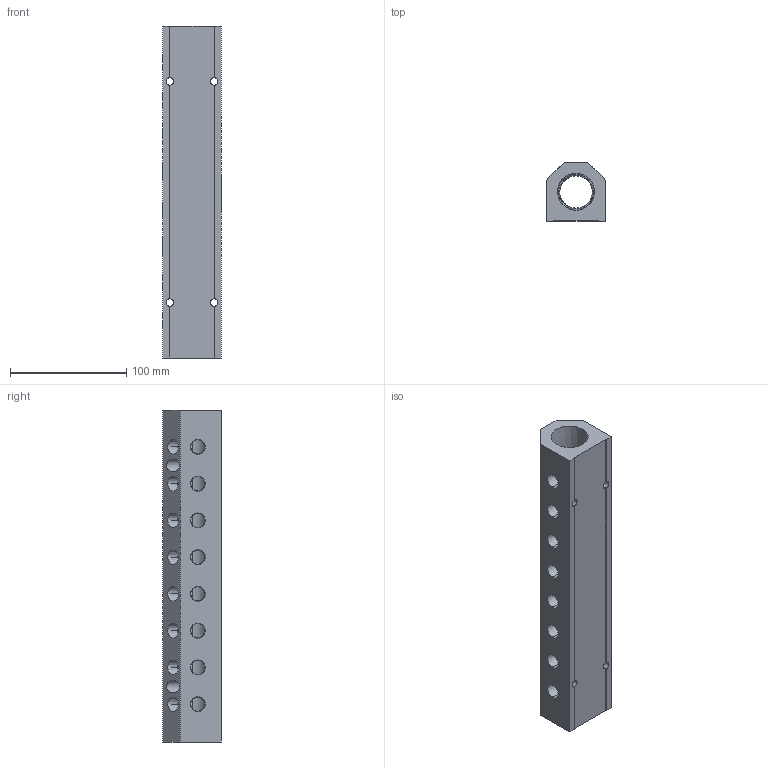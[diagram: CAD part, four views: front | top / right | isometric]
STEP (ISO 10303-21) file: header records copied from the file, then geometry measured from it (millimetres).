
FILE_DESCRIPTION (( 'STEP AP214' ), '1' );
FILE_NAME ('ALM8AB-N4N16-286R.STEP', '2023-11-02T06:51:25', ( '' ), ( '' ), 'SwSTEP 2.0', 'SolidWorks 2020', '' );
FILE_SCHEMA (( 'AUTOMOTIVE_DESIGN' ));
Length unit declared in the file: millimetre
Products named in the file (1): ALM8AB-N4N16-286R
Bounding box: 50.8 x 50.8 x 286 mm (x, y, z)
Volume: 450014.3 mm3; surface area: 89179.8 mm2
Topology: 1 solids, 1 shells, 341 faces, 914 edges, 604 vertices
Faces by surface type: plane 205, bspline 74, cone 40, cylinder 22
Entity records: 19326 total; most frequent: CARTESIAN_POINT 8174, ORIENTED_EDGE 1828, DIRECTION 1314, EDGE_CURVE 914, LINE 626, VECTOR 626, VERTEX_POINT 604, EDGE_LOOP 412
